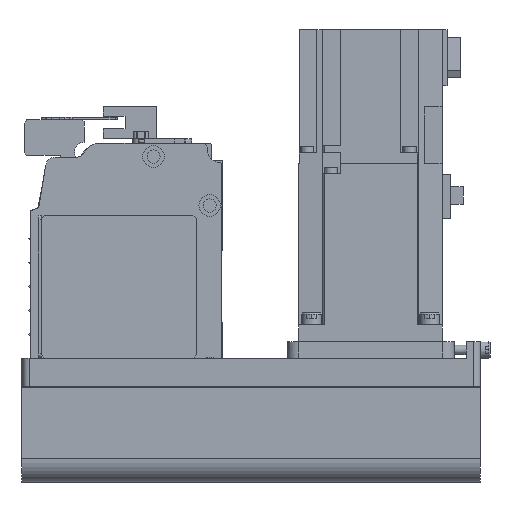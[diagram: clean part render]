
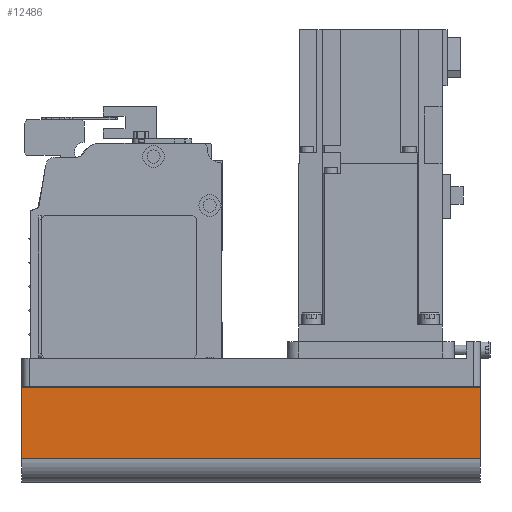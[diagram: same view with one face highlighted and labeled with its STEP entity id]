
A CAD part, left-side view. The second image highlights one B-rep face of the part: STEP entity #12486.
In plain terms, the highlighted planar face has unit normal (-1, 0, 0) as drawn and (0, 1, 0) by its records, which use the part's own axes.
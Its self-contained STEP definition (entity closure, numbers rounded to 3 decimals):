
#2233=ORIENTED_EDGE('',*,*,#5059,.F.);
#2234=ORIENTED_EDGE('',*,*,#5091,.F.);
#2235=ORIENTED_EDGE('',*,*,#5046,.T.);
#2236=ORIENTED_EDGE('',*,*,#5031,.T.);
#5031=EDGE_CURVE('',#6603,#6604,#7861,.T.);
#5046=EDGE_CURVE('',#6615,#6603,#7874,.T.);
#5059=EDGE_CURVE('',#6625,#6604,#7883,.T.);
#5091=EDGE_CURVE('',#6615,#6625,#7895,.T.);
#6603=VERTEX_POINT('',#19481);
#6604=VERTEX_POINT('',#19482);
#6615=VERTEX_POINT('',#19510);
#6625=VERTEX_POINT('',#19537);
#7861=LINE('',#19480,#9089);
#7874=LINE('',#19509,#9102);
#7883=LINE('',#19536,#9111);
#7895=LINE('',#19591,#9123);
#9089=VECTOR('',#15644,1000.);
#9102=VECTOR('',#15665,1000.);
#9111=VECTOR('',#15690,1000.);
#9123=VECTOR('',#15768,1000.);
#10178=EDGE_LOOP('',(#2233,#2234,#2235,#2236));
#11132=FACE_BOUND('',#10178,.T.);
#11919=PLANE('',#13463);
#12486=ADVANCED_FACE('',(#11132),#11919,.T.);
#13463=AXIS2_PLACEMENT_3D('',#19590,#15766,#15767);
#15644=DIRECTION('',(1.,0.,0.));
#15665=DIRECTION('',(0.,0.,1.));
#15690=DIRECTION('',(0.,0.,1.));
#15766=DIRECTION('',(0.,1.,0.));
#15767=DIRECTION('',(0.,0.,1.));
#15768=DIRECTION('',(1.,0.,0.));
#19480=CARTESIAN_POINT('',(-192.,40.,-12.1));
#19481=CARTESIAN_POINT('',(-192.,40.,-12.1));
#19482=CARTESIAN_POINT('',(0.,40.,-12.1));
#19509=CARTESIAN_POINT('',(-192.,40.,-42.));
#19510=CARTESIAN_POINT('',(-192.,40.,-42.));
#19536=CARTESIAN_POINT('',(0.,40.,-42.));
#19537=CARTESIAN_POINT('',(0.,40.,-42.));
#19590=CARTESIAN_POINT('',(-192.,40.,-42.));
#19591=CARTESIAN_POINT('',(-192.,40.,-42.));
